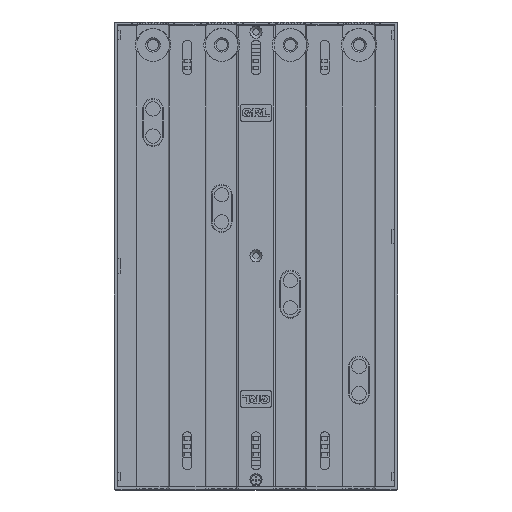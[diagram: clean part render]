
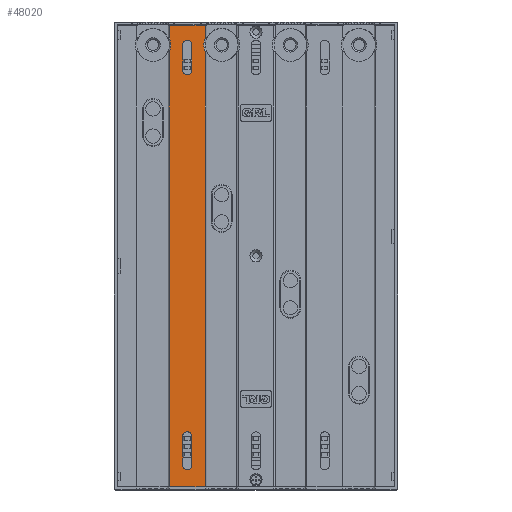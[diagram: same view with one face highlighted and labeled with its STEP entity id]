
A CAD part, top view. The second image highlights one B-rep face of the part: STEP entity #48020.
In plain terms, the highlighted planar face has unit normal (0, 0, 1).
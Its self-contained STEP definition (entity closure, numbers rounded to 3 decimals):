
#162 = LINE ( 'NONE', #74318, #8760 ) ;
#493 = DIRECTION ( 'NONE',  ( 0., 0., -1. ) ) ;
#1014 = DIRECTION ( 'NONE',  ( 1., 0., 0. ) ) ;
#1380 = EDGE_CURVE ( 'NONE', #40521, #47830, #55995, .T. ) ;
#1732 = ORIENTED_EDGE ( 'NONE', *, *, #24135, .T. ) ;
#1852 = VERTEX_POINT ( 'NONE', #60567 ) ;
#4066 = LINE ( 'NONE', #76290, #20231 ) ;
#4570 = EDGE_LOOP ( 'NONE', ( #21834, #66530, #45489, #76635 ) ) ;
#4707 = EDGE_CURVE ( 'NONE', #1852, #73341, #33743, .T. ) ;
#5863 = ORIENTED_EDGE ( 'NONE', *, *, #39092, .T. ) ;
#6130 = VERTEX_POINT ( 'NONE', #21859 ) ;
#8760 = VECTOR ( 'NONE', #19106, 1000. ) ;
#9319 = EDGE_CURVE ( 'NONE', #24437, #63286, #4066, .T. ) ;
#10616 = EDGE_CURVE ( 'NONE', #67977, #26609, #35309, .T. ) ;
#12126 = EDGE_CURVE ( 'NONE', #58511, #1852, #18001, .T. ) ;
#12902 = DIRECTION ( 'NONE',  ( 0., 1., 0. ) ) ;
#13255 = CIRCLE ( 'NONE', #46621, 3.25 ) ;
#13804 = AXIS2_PLACEMENT_3D ( 'NONE', #47837, #17580, #48083 ) ;
#14136 = DIRECTION ( 'NONE',  ( 1., 0., 0. ) ) ;
#14170 = CARTESIAN_POINT ( 'NONE',  ( -44.75, -126.25, 65. ) ) ;
#14913 = CARTESIAN_POINT ( 'NONE',  ( -51.25, 147.5, 65. ) ) ;
#15871 = CARTESIAN_POINT ( 'NONE',  ( -60.5, -161.3, 65. ) ) ;
#17347 = CIRCLE ( 'NONE', #71773, 3.25 ) ;
#17580 = DIRECTION ( 'NONE',  ( 0., 0., -1. ) ) ;
#18001 = LINE ( 'NONE', #30846, #44848 ) ;
#18621 = EDGE_CURVE ( 'NONE', #63286, #50036, #50449, .T. ) ;
#19106 = DIRECTION ( 'NONE',  ( 0., -1., 0. ) ) ;
#19125 = VERTEX_POINT ( 'NONE', #28415 ) ;
#19784 = EDGE_CURVE ( 'NONE', #47830, #67538, #22481, .T. ) ;
#19909 = CARTESIAN_POINT ( 'NONE',  ( -48., 147.5, 65. ) ) ;
#19944 = FACE_BOUND ( 'NONE', #21967, .T. ) ;
#20231 = VECTOR ( 'NONE', #77065, 1000. ) ;
#20329 = CARTESIAN_POINT ( 'NONE',  ( -44.75, 147.5, 65. ) ) ;
#20339 = ORIENTED_EDGE ( 'NONE', *, *, #12126, .T. ) ;
#20963 = LINE ( 'NONE', #28386, #25704 ) ;
#21819 = VERTEX_POINT ( 'NONE', #15871 ) ;
#21834 = ORIENTED_EDGE ( 'NONE', *, *, #33410, .T. ) ;
#21859 = CARTESIAN_POINT ( 'NONE',  ( -51.25, -126.25, 65. ) ) ;
#21892 = CARTESIAN_POINT ( 'NONE',  ( -60.5, 152.399, 65. ) ) ;
#21967 = EDGE_LOOP ( 'NONE', ( #20339, #59240, #29684, #5863 ) ) ;
#22481 = LINE ( 'NONE', #56143, #36824 ) ;
#22656 = AXIS2_PLACEMENT_3D ( 'NONE', #76237, #75737, #14136 ) ;
#22729 = PLANE ( 'NONE',  #41940 ) ;
#23027 = LINE ( 'NONE', #49889, #77715 ) ;
#24135 = EDGE_CURVE ( 'NONE', #50036, #31373, #72899, .T. ) ;
#24437 = VERTEX_POINT ( 'NONE', #45325 ) ;
#24695 = LINE ( 'NONE', #67000, #53443 ) ;
#25704 = VECTOR ( 'NONE', #59759, 1000. ) ;
#26463 = ORIENTED_EDGE ( 'NONE', *, *, #10616, .T. ) ;
#26609 = VERTEX_POINT ( 'NONE', #66425 ) ;
#26873 = CARTESIAN_POINT ( 'NONE',  ( -48., 129.9, 65. ) ) ;
#27319 = DIRECTION ( 'NONE',  ( 0., 1., 0. ) ) ;
#27374 = VERTEX_POINT ( 'NONE', #29814 ) ;
#27870 = VECTOR ( 'NONE', #37424, 1000. ) ;
#28386 = CARTESIAN_POINT ( 'NONE',  ( -60.5, -161.3, 65. ) ) ;
#28415 = CARTESIAN_POINT ( 'NONE',  ( -51.25, 129.9, 65. ) ) ;
#29684 = ORIENTED_EDGE ( 'NONE', *, *, #75126, .T. ) ;
#29814 = CARTESIAN_POINT ( 'NONE',  ( -60.5, 161.3, 65. ) ) ;
#30648 = CARTESIAN_POINT ( 'NONE',  ( -48., -126.25, 65. ) ) ;
#30846 = CARTESIAN_POINT ( 'NONE',  ( -44.75, 0., 65. ) ) ;
#31373 = VERTEX_POINT ( 'NONE', #55297 ) ;
#32019 = DIRECTION ( 'NONE',  ( 0., -1., 0. ) ) ;
#33410 = EDGE_CURVE ( 'NONE', #19125, #40521, #62409, .T. ) ;
#33743 = CIRCLE ( 'NONE', #13804, 3.25 ) ;
#34359 = EDGE_CURVE ( 'NONE', #26609, #21819, #20963, .T. ) ;
#35309 = CIRCLE ( 'NONE', #57201, 12.5 ) ;
#35489 = VECTOR ( 'NONE', #73518, 1000. ) ;
#35693 = CARTESIAN_POINT ( 'NONE',  ( -35.5, 165.3, 65. ) ) ;
#36824 = VECTOR ( 'NONE', #32019, 1000. ) ;
#37424 = DIRECTION ( 'NONE',  ( -1., 0., 0. ) ) ;
#38941 = DIRECTION ( 'NONE',  ( -1., 0., 0. ) ) ;
#39092 = EDGE_CURVE ( 'NONE', #6130, #58511, #17347, .T. ) ;
#40521 = VERTEX_POINT ( 'NONE', #14913 ) ;
#41940 = AXIS2_PLACEMENT_3D ( 'NONE', #59175, #70982, #65579 ) ;
#43441 = EDGE_LOOP ( 'NONE', ( #43559, #26463, #56848, #75826, #47435, #77041, #1732, #72469 ) ) ;
#43555 = CARTESIAN_POINT ( 'NONE',  ( -96.8, 161.3, 65. ) ) ;
#43559 = ORIENTED_EDGE ( 'NONE', *, *, #45077, .T. ) ;
#44279 = DIRECTION ( 'NONE',  ( 0., 0., -1. ) ) ;
#44848 = VECTOR ( 'NONE', #61167, 1000. ) ;
#45027 = DIRECTION ( 'NONE',  ( 0., 0., -1. ) ) ;
#45050 = EDGE_CURVE ( 'NONE', #21819, #24437, #23027, .T. ) ;
#45077 = EDGE_CURVE ( 'NONE', #27374, #67977, #162, .T. ) ;
#45325 = CARTESIAN_POINT ( 'NONE',  ( -35.5, -161.3, 65. ) ) ;
#45489 = ORIENTED_EDGE ( 'NONE', *, *, #19784, .T. ) ;
#46621 = AXIS2_PLACEMENT_3D ( 'NONE', #26873, #69794, #38941 ) ;
#47435 = ORIENTED_EDGE ( 'NONE', *, *, #9319, .T. ) ;
#47830 = VERTEX_POINT ( 'NONE', #20329 ) ;
#47837 = CARTESIAN_POINT ( 'NONE',  ( -48., -146.25, 65. ) ) ;
#48020 = ADVANCED_FACE ( 'NONE', ( #65003, #19944, #48659 ), #22729, .T. ) ;
#48083 = DIRECTION ( 'NONE',  ( -1., 0., 0. ) ) ;
#48659 = FACE_OUTER_BOUND ( 'NONE', #43441, .T. ) ;
#48927 = CARTESIAN_POINT ( 'NONE',  ( -35.5, 152.399, 65. ) ) ;
#48975 = EDGE_CURVE ( 'NONE', #67538, #19125, #13255, .T. ) ;
#49889 = CARTESIAN_POINT ( 'NONE',  ( -96.8, -161.3, 65. ) ) ;
#50036 = VERTEX_POINT ( 'NONE', #48927 ) ;
#50449 = CIRCLE ( 'NONE', #22656, 12.5 ) ;
#53443 = VECTOR ( 'NONE', #12902, 1000. ) ;
#55297 = CARTESIAN_POINT ( 'NONE',  ( -35.5, 161.3, 65. ) ) ;
#55995 = CIRCLE ( 'NONE', #75748, 3.25 ) ;
#56143 = CARTESIAN_POINT ( 'NONE',  ( -44.75, 0., 65. ) ) ;
#56848 = ORIENTED_EDGE ( 'NONE', *, *, #34359, .T. ) ;
#57201 = AXIS2_PLACEMENT_3D ( 'NONE', #69420, #45027, #69082 ) ;
#58511 = VERTEX_POINT ( 'NONE', #14170 ) ;
#59175 = CARTESIAN_POINT ( 'NONE',  ( 0., 0., 65. ) ) ;
#59240 = ORIENTED_EDGE ( 'NONE', *, *, #4707, .T. ) ;
#59759 = DIRECTION ( 'NONE',  ( 0., -1., 0. ) ) ;
#60494 = CARTESIAN_POINT ( 'NONE',  ( -44.75, 129.9, 65. ) ) ;
#60567 = CARTESIAN_POINT ( 'NONE',  ( -44.75, -146.25, 65. ) ) ;
#60676 = DIRECTION ( 'NONE',  ( -1., 0., 0. ) ) ;
#61167 = DIRECTION ( 'NONE',  ( 0., -1., 0. ) ) ;
#62409 = LINE ( 'NONE', #75875, #76793 ) ;
#63286 = VERTEX_POINT ( 'NONE', #70385 ) ;
#65003 = FACE_BOUND ( 'NONE', #4570, .T. ) ;
#65579 = DIRECTION ( 'NONE',  ( 1., 0., 0. ) ) ;
#66425 = CARTESIAN_POINT ( 'NONE',  ( -60.5, 142.601, 65. ) ) ;
#66530 = ORIENTED_EDGE ( 'NONE', *, *, #1380, .T. ) ;
#67000 = CARTESIAN_POINT ( 'NONE',  ( -51.25, 0., 65. ) ) ;
#67538 = VERTEX_POINT ( 'NONE', #60494 ) ;
#67703 = EDGE_CURVE ( 'NONE', #31373, #27374, #75843, .T. ) ;
#67977 = VERTEX_POINT ( 'NONE', #21892 ) ;
#68001 = CARTESIAN_POINT ( 'NONE',  ( -51.25, -146.25, 65. ) ) ;
#69082 = DIRECTION ( 'NONE',  ( 1., 0., 0. ) ) ;
#69420 = CARTESIAN_POINT ( 'NONE',  ( -72., 147.5, 65. ) ) ;
#69794 = DIRECTION ( 'NONE',  ( 0., 0., -1. ) ) ;
#70385 = CARTESIAN_POINT ( 'NONE',  ( -35.5, 142.601, 65. ) ) ;
#70982 = DIRECTION ( 'NONE',  ( 0., 0., 1. ) ) ;
#71773 = AXIS2_PLACEMENT_3D ( 'NONE', #30648, #493, #60676 ) ;
#72469 = ORIENTED_EDGE ( 'NONE', *, *, #67703, .T. ) ;
#72899 = LINE ( 'NONE', #35693, #35489 ) ;
#73341 = VERTEX_POINT ( 'NONE', #68001 ) ;
#73518 = DIRECTION ( 'NONE',  ( 0., 1., 0. ) ) ;
#74318 = CARTESIAN_POINT ( 'NONE',  ( -60.5, -161.3, 65. ) ) ;
#75126 = EDGE_CURVE ( 'NONE', #73341, #6130, #24695, .T. ) ;
#75677 = DIRECTION ( 'NONE',  ( -1., 0., 0. ) ) ;
#75737 = DIRECTION ( 'NONE',  ( 0., 0., -1. ) ) ;
#75748 = AXIS2_PLACEMENT_3D ( 'NONE', #19909, #44279, #75677 ) ;
#75826 = ORIENTED_EDGE ( 'NONE', *, *, #45050, .T. ) ;
#75843 = LINE ( 'NONE', #43555, #27870 ) ;
#75875 = CARTESIAN_POINT ( 'NONE',  ( -51.25, 0., 65. ) ) ;
#76237 = CARTESIAN_POINT ( 'NONE',  ( -24., 147.5, 65. ) ) ;
#76290 = CARTESIAN_POINT ( 'NONE',  ( -35.5, 165.3, 65. ) ) ;
#76635 = ORIENTED_EDGE ( 'NONE', *, *, #48975, .T. ) ;
#76793 = VECTOR ( 'NONE', #27319, 1000. ) ;
#77041 = ORIENTED_EDGE ( 'NONE', *, *, #18621, .T. ) ;
#77065 = DIRECTION ( 'NONE',  ( 0., 1., 0. ) ) ;
#77715 = VECTOR ( 'NONE', #1014, 1000. ) ;
